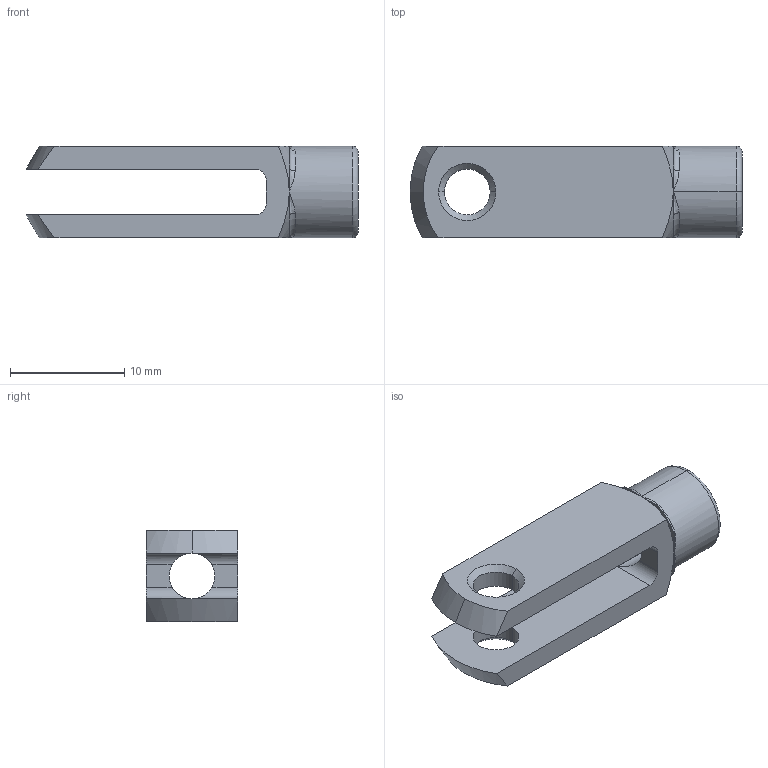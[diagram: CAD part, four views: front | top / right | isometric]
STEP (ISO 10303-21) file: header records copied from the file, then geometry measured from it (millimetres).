
FILE_DESCRIPTION (( 'STEP AP203' ), '1' );
FILE_NAME ('65636.W0041.step', '2014-01-17T13:10:34', ( 'User' ), ( '' ), 'SwSTEP 2.0', 'SolidWorks 2009', '' );
FILE_SCHEMA (( 'CONFIG_CONTROL_DESIGN' ));
Length unit declared in the file: millimetre
Products named in the file (1): 65636.W0041
Bounding box: 29 x 8 x 8 mm (x, y, z)
Volume: 914.3 mm3; surface area: 1205.1 mm2
Topology: 1 solids, 1 shells, 52 faces, 127 edges, 68 vertices
Faces by surface type: cone 13, plane 13, cylinder 12, bspline 8, torus 6
Entity records: 1798 total; most frequent: CARTESIAN_POINT 584, DIRECTION 239, ORIENTED_EDGE 238, EDGE_CURVE 119, AXIS2_PLACEMENT_3D 99, VERTEX_POINT 68, EDGE_LOOP 57, CIRCLE 54
